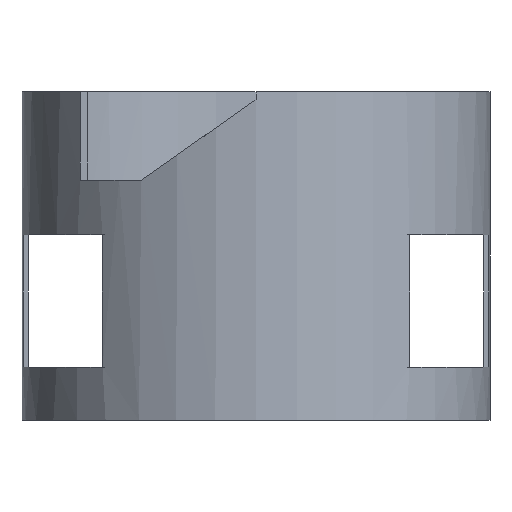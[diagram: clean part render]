
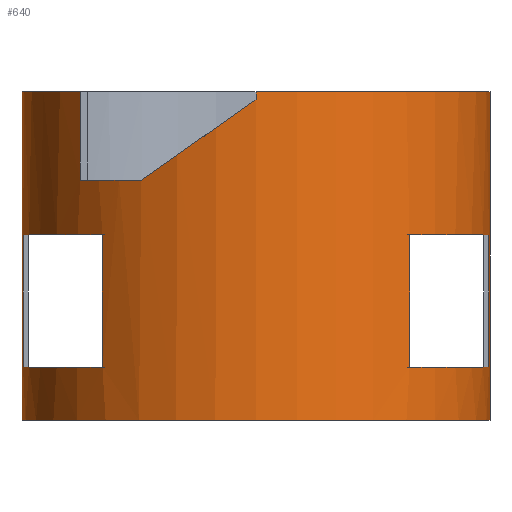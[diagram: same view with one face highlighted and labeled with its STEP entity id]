
A CAD part, front view. The second image highlights one B-rep face of the part: STEP entity #640.
In plain terms, the highlighted cylindrical face has radius 265 mm (diameter 530 mm), a partial arc.
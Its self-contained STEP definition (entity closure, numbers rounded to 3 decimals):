
#2 = EDGE_CURVE ( 'NONE', #337, #212, #334, .T. ) ;
#4 = FACE_BOUND ( 'NONE', #866, .T. ) ;
#6 = AXIS2_PLACEMENT_3D ( 'NONE', #958, #152, #688 ) ;
#7 = DIRECTION ( 'NONE',  ( 0., 0., 1. ) ) ;
#12 = CARTESIAN_POINT ( 'NONE',  ( 0., 0., 60. ) ) ;
#14 = ORIENTED_EDGE ( 'NONE', *, *, #68, .F. ) ;
#34 = EDGE_CURVE ( 'NONE', #787, #612, #220, .T. ) ;
#46 = CARTESIAN_POINT ( 'NONE',  ( 265., 0., 0. ) ) ;
#51 = CARTESIAN_POINT ( 'NONE',  ( 263.818, -25., 60. ) ) ;
#64 = ORIENTED_EDGE ( 'NONE', *, *, #237, .T. ) ;
#68 = EDGE_CURVE ( 'NONE', #818, #158, #660, .T. ) ;
#70 = CARTESIAN_POINT ( 'NONE',  ( 0., -265., 372. ) ) ;
#87 = DIRECTION ( 'NONE',  ( 1., 0., 0. ) ) ;
#95 = VERTEX_POINT ( 'NONE', #51 ) ;
#101 = CIRCLE ( 'NONE', #269, 265. ) ;
#110 = VERTEX_POINT ( 'NONE', #46 ) ;
#118 = ORIENTED_EDGE ( 'NONE', *, *, #971, .T. ) ;
#129 = ORIENTED_EDGE ( 'NONE', *, *, #487, .F. ) ;
#135 = EDGE_CURVE ( 'NONE', #95, #387, #781, .T. ) ;
#138 = CARTESIAN_POINT ( 'NONE',  ( 0., 0., 372. ) ) ;
#152 = DIRECTION ( 'NONE',  ( 0., 0., 1. ) ) ;
#158 = VERTEX_POINT ( 'NONE', #70 ) ;
#160 = CIRCLE ( 'NONE', #6, 265. ) ;
#161 = DIRECTION ( 'NONE',  ( 0., 0., -1. ) ) ;
#173 = VECTOR ( 'NONE', #924, 1000. ) ;
#176 = DIRECTION ( 'NONE',  ( 0., 1., 0. ) ) ;
#184 = LINE ( 'NONE', #810, #435 ) ;
#186 = ORIENTED_EDGE ( 'NONE', *, *, #607, .T. ) ;
#193 = ORIENTED_EDGE ( 'NONE', *, *, #549, .T. ) ;
#201 = CARTESIAN_POINT ( 'NONE',  ( -198.997, -175., 372. ) ) ;
#207 = CARTESIAN_POINT ( 'NONE',  ( -45.795, -265., 330.961 ) ) ;
#209 = CIRCLE ( 'NONE', #1019, 265. ) ;
#212 = VERTEX_POINT ( 'NONE', #1037 ) ;
#220 = LINE ( 'NONE', #665, #841 ) ;
#226 = DIRECTION ( 'NONE',  ( 0., 0., -1. ) ) ;
#236 = CARTESIAN_POINT ( 'NONE',  ( 265., 0., 372. ) ) ;
#237 = EDGE_CURVE ( 'NONE', #384, #883, #819, .T. ) ;
#238 = DIRECTION ( 'NONE',  ( 0., 0., -1. ) ) ;
#241 = ORIENTED_EDGE ( 'NONE', *, *, #621, .T. ) ;
#245 = AXIS2_PLACEMENT_3D ( 'NONE', #677, #359, #976 ) ;
#249 = CARTESIAN_POINT ( 'NONE',  ( 0., 0., 272. ) ) ;
#269 = AXIS2_PLACEMENT_3D ( 'NONE', #138, #842, #749 ) ;
#280 = EDGE_LOOP ( 'NONE', ( #316, #856, #14, #193, #1106, #129, #562, #838, #241 ) ) ;
#286 = DIRECTION ( 'NONE',  ( 0., 0., -1. ) ) ;
#287 = EDGE_LOOP ( 'NONE', ( #64, #469, #794, #118 ) ) ;
#316 = ORIENTED_EDGE ( 'NONE', *, *, #331, .F. ) ;
#323 = CARTESIAN_POINT ( 'NONE',  ( -173.853, -200., 60. ) ) ;
#331 = EDGE_CURVE ( 'NONE', #1042, #110, #728, .T. ) ;
#334 = CIRCLE ( 'NONE', #765, 265. ) ;
#337 = VERTEX_POINT ( 'NONE', #998 ) ;
#342 = DIRECTION ( 'NONE',  ( 0., 0., 1. ) ) ;
#352 = DIRECTION ( 'NONE',  ( 0., -1., 0. ) ) ;
#359 = DIRECTION ( 'NONE',  ( 0., 0., 1. ) ) ;
#366 = LINE ( 'NONE', #1084, #975 ) ;
#384 = VERTEX_POINT ( 'NONE', #1097 ) ;
#387 = VERTEX_POINT ( 'NONE', #993 ) ;
#396 = EDGE_CURVE ( 'NONE', #883, #525, #184, .T. ) ;
#402 = AXIS2_PLACEMENT_3D ( 'NONE', #443, #238, #1141 ) ;
#411 = LINE ( 'NONE', #614, #840 ) ;
#418 = ORIENTED_EDGE ( 'NONE', *, *, #135, .T. ) ;
#425 = VERTEX_POINT ( 'NONE', #201 ) ;
#435 = VECTOR ( 'NONE', #650, 1000. ) ;
#443 = CARTESIAN_POINT ( 'NONE',  ( 0., 0., 372. ) ) ;
#469 = ORIENTED_EDGE ( 'NONE', *, *, #396, .T. ) ;
#472 = AXIS2_PLACEMENT_3D ( 'NONE', #249, #873, #87 ) ;
#479 = CARTESIAN_POINT ( 'NONE',  ( 263.818, -25., 372. ) ) ;
#487 = EDGE_CURVE ( 'NONE', #425, #639, #366, .T. ) ;
#498 = VERTEX_POINT ( 'NONE', #834 ) ;
#508 = DIRECTION ( 'NONE',  ( 1., 0., 0. ) ) ;
#521 = CARTESIAN_POINT ( 'NONE',  ( -265., 0., 0. ) ) ;
#525 = VERTEX_POINT ( 'NONE', #323 ) ;
#530 = DIRECTION ( 'NONE',  ( 0., 0., 1. ) ) ;
#549 = EDGE_CURVE ( 'NONE', #818, #967, #583, .T. ) ;
#550 = CARTESIAN_POINT ( 'NONE',  ( 0., 0., 210. ) ) ;
#562 = ORIENTED_EDGE ( 'NONE', *, *, #946, .F. ) ;
#570 = EDGE_CURVE ( 'NONE', #212, #95, #668, .T. ) ;
#583 =( BOUNDED_CURVE ( )  B_SPLINE_CURVE ( 3, ( #853, #207, #1028, #1108 ),
 .UNSPECIFIED., .F., .F. ) 
 B_SPLINE_CURVE_WITH_KNOTS ( ( 4, 4 ),
 ( 4.712, 5.225 ),
 .UNSPECIFIED. ) 
 CURVE ( )  GEOMETRIC_REPRESENTATION_ITEM ( )  RATIONAL_B_SPLINE_CURVE ( ( 1., 0.978, 0.978, 1. ) ) 
 REPRESENTATION_ITEM ( '' )  );
#584 = VECTOR ( 'NONE', #964, 1000. ) ;
#601 = EDGE_CURVE ( 'NONE', #158, #1042, #101, .T. ) ;
#607 = EDGE_CURVE ( 'NONE', #387, #337, #411, .T. ) ;
#609 = CARTESIAN_POINT ( 'NONE',  ( -130., -230.922, 272. ) ) ;
#612 = VERTEX_POINT ( 'NONE', #521 ) ;
#614 = CARTESIAN_POINT ( 'NONE',  ( 173.853, -200., 372. ) ) ;
#621 = EDGE_CURVE ( 'NONE', #612, #110, #209, .T. ) ;
#639 = VERTEX_POINT ( 'NONE', #1136 ) ;
#640 = ADVANCED_FACE ( 'NONE', ( #1051, #4, #960 ), #954, .T. ) ;
#644 = CARTESIAN_POINT ( 'NONE',  ( -265., 0., 372. ) ) ;
#650 = DIRECTION ( 'NONE',  ( 0., 0., -1. ) ) ;
#660 = LINE ( 'NONE', #812, #862 ) ;
#665 = CARTESIAN_POINT ( 'NONE',  ( -265., 0., 372. ) ) ;
#668 = LINE ( 'NONE', #479, #173 ) ;
#677 = CARTESIAN_POINT ( 'NONE',  ( 0., 0., 210. ) ) ;
#688 = DIRECTION ( 'NONE',  ( 1., 0., 0. ) ) ;
#700 = EDGE_CURVE ( 'NONE', #525, #498, #727, .T. ) ;
#727 = CIRCLE ( 'NONE', #901, 265. ) ;
#728 = LINE ( 'NONE', #817, #759 ) ;
#742 = DIRECTION ( 'NONE',  ( 0., 0., -1. ) ) ;
#749 = DIRECTION ( 'NONE',  ( 1., 0., 0. ) ) ;
#759 = VECTOR ( 'NONE', #797, 1000. ) ;
#765 = AXIS2_PLACEMENT_3D ( 'NONE', #550, #7, #352 ) ;
#781 = CIRCLE ( 'NONE', #1073, 265. ) ;
#787 = VERTEX_POINT ( 'NONE', #644 ) ;
#794 = ORIENTED_EDGE ( 'NONE', *, *, #700, .T. ) ;
#797 = DIRECTION ( 'NONE',  ( 0., 0., -1. ) ) ;
#804 = CARTESIAN_POINT ( 'NONE',  ( -173.853, -200., 210. ) ) ;
#810 = CARTESIAN_POINT ( 'NONE',  ( -173.853, -200., 372. ) ) ;
#812 = CARTESIAN_POINT ( 'NONE',  ( 0., -265., 272. ) ) ;
#817 = CARTESIAN_POINT ( 'NONE',  ( 265., 0., 372. ) ) ;
#818 = VERTEX_POINT ( 'NONE', #986 ) ;
#819 = CIRCLE ( 'NONE', #245, 265. ) ;
#834 = CARTESIAN_POINT ( 'NONE',  ( -263.818, -25., 60. ) ) ;
#838 = ORIENTED_EDGE ( 'NONE', *, *, #34, .T. ) ;
#840 = VECTOR ( 'NONE', #342, 1000. ) ;
#841 = VECTOR ( 'NONE', #742, 1000. ) ;
#842 = DIRECTION ( 'NONE',  ( 0., 0., 1. ) ) ;
#851 = LINE ( 'NONE', #973, #584 ) ;
#853 = CARTESIAN_POINT ( 'NONE',  ( 0., -265., 363.027 ) ) ;
#856 = ORIENTED_EDGE ( 'NONE', *, *, #601, .F. ) ;
#860 = DIRECTION ( 'NONE',  ( 0., 1., 0. ) ) ;
#862 = VECTOR ( 'NONE', #1026, 1000. ) ;
#866 = EDGE_LOOP ( 'NONE', ( #418, #186, #1128, #1120 ) ) ;
#870 = CARTESIAN_POINT ( 'NONE',  ( 0., 0., 0. ) ) ;
#873 = DIRECTION ( 'NONE',  ( 0., 0., 1. ) ) ;
#883 = VERTEX_POINT ( 'NONE', #804 ) ;
#901 = AXIS2_PLACEMENT_3D ( 'NONE', #12, #161, #860 ) ;
#919 = CARTESIAN_POINT ( 'NONE',  ( 0., 0., 60. ) ) ;
#924 = DIRECTION ( 'NONE',  ( 0., 0., -1. ) ) ;
#946 = EDGE_CURVE ( 'NONE', #787, #425, #160, .T. ) ;
#954 = CYLINDRICAL_SURFACE ( 'NONE', #402, 265. ) ;
#958 = CARTESIAN_POINT ( 'NONE',  ( 0., 0., 372. ) ) ;
#960 = FACE_BOUND ( 'NONE', #287, .T. ) ;
#964 = DIRECTION ( 'NONE',  ( 0., 0., 1. ) ) ;
#967 = VERTEX_POINT ( 'NONE', #609 ) ;
#971 = EDGE_CURVE ( 'NONE', #498, #384, #851, .T. ) ;
#973 = CARTESIAN_POINT ( 'NONE',  ( -263.818, -25., 372. ) ) ;
#975 = VECTOR ( 'NONE', #286, 1000. ) ;
#976 = DIRECTION ( 'NONE',  ( 0., -1., 0. ) ) ;
#986 = CARTESIAN_POINT ( 'NONE',  ( 0., -265., 363.027 ) ) ;
#993 = CARTESIAN_POINT ( 'NONE',  ( 173.853, -200., 60. ) ) ;
#998 = CARTESIAN_POINT ( 'NONE',  ( 173.853, -200., 210. ) ) ;
#1005 = EDGE_CURVE ( 'NONE', #639, #967, #1040, .T. ) ;
#1019 = AXIS2_PLACEMENT_3D ( 'NONE', #870, #530, #508 ) ;
#1026 = DIRECTION ( 'NONE',  ( 0., 0., 1. ) ) ;
#1028 = CARTESIAN_POINT ( 'NONE',  ( -90.094, -253.388, 299.943 ) ) ;
#1037 = CARTESIAN_POINT ( 'NONE',  ( 263.818, -25., 210. ) ) ;
#1040 = CIRCLE ( 'NONE', #472, 265. ) ;
#1042 = VERTEX_POINT ( 'NONE', #236 ) ;
#1051 = FACE_OUTER_BOUND ( 'NONE', #280, .T. ) ;
#1073 = AXIS2_PLACEMENT_3D ( 'NONE', #919, #226, #176 ) ;
#1084 = CARTESIAN_POINT ( 'NONE',  ( -198.997, -175., 372. ) ) ;
#1097 = CARTESIAN_POINT ( 'NONE',  ( -263.818, -25., 210. ) ) ;
#1106 = ORIENTED_EDGE ( 'NONE', *, *, #1005, .F. ) ;
#1108 = CARTESIAN_POINT ( 'NONE',  ( -130., -230.922, 272. ) ) ;
#1120 = ORIENTED_EDGE ( 'NONE', *, *, #570, .T. ) ;
#1128 = ORIENTED_EDGE ( 'NONE', *, *, #2, .T. ) ;
#1136 = CARTESIAN_POINT ( 'NONE',  ( -198.997, -175., 272. ) ) ;
#1141 = DIRECTION ( 'NONE',  ( -1., 0., 0. ) ) ;
